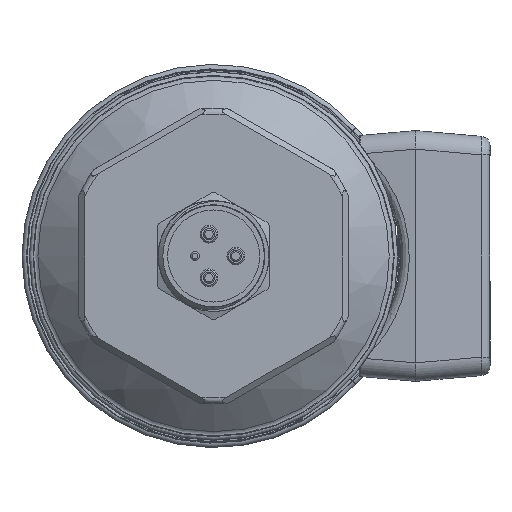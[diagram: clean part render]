
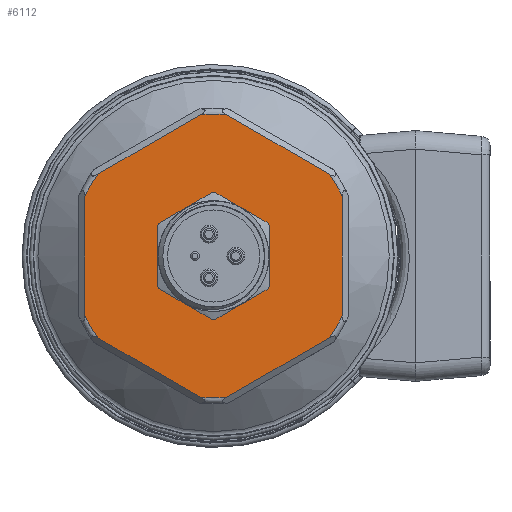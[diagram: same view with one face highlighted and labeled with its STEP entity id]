
A CAD part, left-side view. The second image highlights one B-rep face of the part: STEP entity #6112.
In plain terms, the highlighted planar face has unit normal (-1, 0, 0).
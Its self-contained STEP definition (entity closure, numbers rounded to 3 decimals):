
#156 = CARTESIAN_POINT ( 'NONE',  ( -79.5, 29.197, 8.568 ) ) ;
#476 = EDGE_CURVE ( 'NONE', #11910, #11910, #3103, .T. ) ;
#628 = DIRECTION ( 'NONE',  ( 1., 0., 0. ) ) ;
#1331 = CARTESIAN_POINT ( 'NONE',  ( -79.5, 0., 0. ) ) ;
#1813 = VERTEX_POINT ( 'NONE', #11386 ) ;
#1871 = VERTEX_POINT ( 'NONE', #3132 ) ;
#1894 = AXIS2_PLACEMENT_3D ( 'NONE', #27628, #16268, #22292 ) ;
#2194 = EDGE_CURVE ( 'NONE', #1813, #11614, #8931, .T. ) ;
#2472 = VECTOR ( 'NONE', #26910, 1000. ) ;
#3103 = CIRCLE ( 'NONE', #23232, 5.753 ) ;
#3132 = CARTESIAN_POINT ( 'NONE',  ( -79.5, -19.809, -13.989 ) ) ;
#3173 = DIRECTION ( 'NONE',  ( 0., 0., 1. ) ) ;
#3331 = CIRCLE ( 'NONE', #18072, 24.25 ) ;
#3649 = CIRCLE ( 'NONE', #10634, 24.25 ) ;
#3679 = DIRECTION ( 'NONE',  ( 0., 0., -1. ) ) ;
#3766 = DIRECTION ( 'NONE',  ( 0., 0.866, 0.5 ) ) ;
#4213 = VERTEX_POINT ( 'NONE', #19995 ) ;
#4393 = FACE_OUTER_BOUND ( 'NONE', #8700, .T. ) ;
#4812 = EDGE_LOOP ( 'NONE', ( #16168 ) ) ;
#4859 = DIRECTION ( 'NONE',  ( 0., -0.866, -0.5 ) ) ;
#5097 = CARTESIAN_POINT ( 'NONE',  ( -79.5, -19.809, 13.989 ) ) ;
#5508 = DIRECTION ( 'NONE',  ( -1., 0., 0. ) ) ;
#5591 = ORIENTED_EDGE ( 'NONE', *, *, #22800, .T. ) ;
#5604 = DIRECTION ( 'NONE',  ( 1., 0., 0. ) ) ;
#5869 = VECTOR ( 'NONE', #3766, 1000. ) ;
#6083 = DIRECTION ( 'NONE',  ( 0., 0., -1. ) ) ;
#6112 = ADVANCED_FACE ( 'NONE', ( #10612, #4393 ), #19329, .T. ) ;
#6269 = LINE ( 'NONE', #19511, #11715 ) ;
#7153 = CARTESIAN_POINT ( 'NONE',  ( -79.5, 22.019, -10.161 ) ) ;
#7980 = EDGE_CURVE ( 'NONE', #17534, #1871, #29231, .T. ) ;
#8063 = VERTEX_POINT ( 'NONE', #21896 ) ;
#8700 = EDGE_LOOP ( 'NONE', ( #30036, #19270, #11409, #5591, #19060, #15617, #26456, #24907, #25598, #28557, #12749, #22776 ) ) ;
#8754 = DIRECTION ( 'NONE',  ( 0., 0., 1. ) ) ;
#8931 = CIRCLE ( 'NONE', #1894, 24.25 ) ;
#9258 = EDGE_CURVE ( 'NONE', #8063, #1871, #12268, .T. ) ;
#10009 = CARTESIAN_POINT ( 'NONE',  ( -79.5, 2.21, 24.149 ) ) ;
#10466 = CARTESIAN_POINT ( 'NONE',  ( -79.5, 22.019, 0. ) ) ;
#10612 = FACE_BOUND ( 'NONE', #4812, .T. ) ;
#10634 = AXIS2_PLACEMENT_3D ( 'NONE', #1331, #17671, #3679 ) ;
#10831 = DIRECTION ( 'NONE',  ( 1., 0., 0. ) ) ;
#10974 = EDGE_CURVE ( 'NONE', #22278, #27781, #6269, .T. ) ;
#11386 = CARTESIAN_POINT ( 'NONE',  ( -79.5, 22.019, 10.161 ) ) ;
#11409 = ORIENTED_EDGE ( 'NONE', *, *, #17435, .F. ) ;
#11614 = VERTEX_POINT ( 'NONE', #21345 ) ;
#11676 = VERTEX_POINT ( 'NONE', #7153 ) ;
#11715 = VECTOR ( 'NONE', #4859, 1000. ) ;
#11910 = VERTEX_POINT ( 'NONE', #28529 ) ;
#12108 = AXIS2_PLACEMENT_3D ( 'NONE', #19535, #5508, #21901 ) ;
#12268 = LINE ( 'NONE', #28886, #29206 ) ;
#12573 = DIRECTION ( 'NONE',  ( 1., 0., 0. ) ) ;
#12749 = ORIENTED_EDGE ( 'NONE', *, *, #7980, .F. ) ;
#13540 = VERTEX_POINT ( 'NONE', #17320 ) ;
#14172 = DIRECTION ( 'NONE',  ( 0., 0.866, -0.5 ) ) ;
#14462 = EDGE_CURVE ( 'NONE', #19333, #4213, #29554, .T. ) ;
#14816 = DIRECTION ( 'NONE',  ( 0., -0.866, 0.5 ) ) ;
#15617 = ORIENTED_EDGE ( 'NONE', *, *, #18164, .T. ) ;
#16168 = ORIENTED_EDGE ( 'NONE', *, *, #476, .F. ) ;
#16268 = DIRECTION ( 'NONE',  ( 1., 0., 0. ) ) ;
#17103 = VECTOR ( 'NONE', #3173, 1000. ) ;
#17250 = EDGE_CURVE ( 'NONE', #22278, #11676, #27513, .T. ) ;
#17320 = CARTESIAN_POINT ( 'NONE',  ( -79.5, -2.21, 24.149 ) ) ;
#17435 = EDGE_CURVE ( 'NONE', #25662, #13540, #3649, .T. ) ;
#17534 = VERTEX_POINT ( 'NONE', #17879 ) ;
#17671 = DIRECTION ( 'NONE',  ( 1., 0., 0. ) ) ;
#17779 = LINE ( 'NONE', #156, #29563 ) ;
#17879 = CARTESIAN_POINT ( 'NONE',  ( -79.5, -22.019, -10.161 ) ) ;
#18072 = AXIS2_PLACEMENT_3D ( 'NONE', #24906, #10831, #27276 ) ;
#18164 = EDGE_CURVE ( 'NONE', #1813, #11676, #21163, .T. ) ;
#18311 = LINE ( 'NONE', #26948, #5869 ) ;
#19060 = ORIENTED_EDGE ( 'NONE', *, *, #2194, .F. ) ;
#19270 = ORIENTED_EDGE ( 'NONE', *, *, #19748, .T. ) ;
#19329 = PLANE ( 'NONE',  #12108 ) ;
#19333 = VERTEX_POINT ( 'NONE', #5097 ) ;
#19511 = CARTESIAN_POINT ( 'NONE',  ( -79.5, 29.197, -8.568 ) ) ;
#19535 = CARTESIAN_POINT ( 'NONE',  ( -79.5, 24.25, 0. ) ) ;
#19632 = CARTESIAN_POINT ( 'NONE',  ( -79.5, 0., 0. ) ) ;
#19748 = EDGE_CURVE ( 'NONE', #19333, #13540, #18311, .T. ) ;
#19995 = CARTESIAN_POINT ( 'NONE',  ( -79.5, -22.019, 10.161 ) ) ;
#21163 = LINE ( 'NONE', #10466, #2472 ) ;
#21345 = CARTESIAN_POINT ( 'NONE',  ( -79.5, 19.809, 13.989 ) ) ;
#21605 = AXIS2_PLACEMENT_3D ( 'NONE', #24085, #628, #6083 ) ;
#21896 = CARTESIAN_POINT ( 'NONE',  ( -79.5, -2.21, -24.149 ) ) ;
#21901 = DIRECTION ( 'NONE',  ( 0., 0., 1. ) ) ;
#22005 = DIRECTION ( 'NONE',  ( 0., 0., -1. ) ) ;
#22278 = VERTEX_POINT ( 'NONE', #27478 ) ;
#22292 = DIRECTION ( 'NONE',  ( 0., 0., -1. ) ) ;
#22776 = ORIENTED_EDGE ( 'NONE', *, *, #29287, .T. ) ;
#22800 = EDGE_CURVE ( 'NONE', #25662, #11614, #17779, .T. ) ;
#23232 = AXIS2_PLACEMENT_3D ( 'NONE', #26949, #30108, #8754 ) ;
#23361 = LINE ( 'NONE', #26565, #17103 ) ;
#23806 = AXIS2_PLACEMENT_3D ( 'NONE', #19632, #5604, #22005 ) ;
#24085 = CARTESIAN_POINT ( 'NONE',  ( -79.5, 0., 0. ) ) ;
#24574 = EDGE_CURVE ( 'NONE', #8063, #27781, #3331, .T. ) ;
#24906 = CARTESIAN_POINT ( 'NONE',  ( -79.5, 0., 0. ) ) ;
#24907 = ORIENTED_EDGE ( 'NONE', *, *, #10974, .T. ) ;
#24946 = AXIS2_PLACEMENT_3D ( 'NONE', #26672, #12573, #29018 ) ;
#25598 = ORIENTED_EDGE ( 'NONE', *, *, #24574, .F. ) ;
#25662 = VERTEX_POINT ( 'NONE', #10009 ) ;
#26456 = ORIENTED_EDGE ( 'NONE', *, *, #17250, .F. ) ;
#26565 = CARTESIAN_POINT ( 'NONE',  ( -79.5, -22.019, 0. ) ) ;
#26672 = CARTESIAN_POINT ( 'NONE',  ( -79.5, 0., 0. ) ) ;
#26910 = DIRECTION ( 'NONE',  ( 0., 0., -1. ) ) ;
#26949 = CARTESIAN_POINT ( 'NONE',  ( -79.5, 0., 0. ) ) ;
#26948 = CARTESIAN_POINT ( 'NONE',  ( -79.5, 7.178, 29.569 ) ) ;
#27276 = DIRECTION ( 'NONE',  ( 0., 0., -1. ) ) ;
#27478 = CARTESIAN_POINT ( 'NONE',  ( -79.5, 19.809, -13.989 ) ) ;
#27513 = CIRCLE ( 'NONE', #23806, 24.25 ) ;
#27628 = CARTESIAN_POINT ( 'NONE',  ( -79.5, 0., 0. ) ) ;
#27781 = VERTEX_POINT ( 'NONE', #29438 ) ;
#28529 = CARTESIAN_POINT ( 'NONE',  ( -79.5, 0., 5.753 ) ) ;
#28557 = ORIENTED_EDGE ( 'NONE', *, *, #9258, .T. ) ;
#28886 = CARTESIAN_POINT ( 'NONE',  ( -79.5, 7.178, -29.569 ) ) ;
#29018 = DIRECTION ( 'NONE',  ( 0., 0., -1. ) ) ;
#29206 = VECTOR ( 'NONE', #14816, 1000. ) ;
#29231 = CIRCLE ( 'NONE', #21605, 24.25 ) ;
#29287 = EDGE_CURVE ( 'NONE', #17534, #4213, #23361, .T. ) ;
#29438 = CARTESIAN_POINT ( 'NONE',  ( -79.5, 2.21, -24.149 ) ) ;
#29554 = CIRCLE ( 'NONE', #24946, 24.25 ) ;
#29563 = VECTOR ( 'NONE', #14172, 1000. ) ;
#30036 = ORIENTED_EDGE ( 'NONE', *, *, #14462, .F. ) ;
#30108 = DIRECTION ( 'NONE',  ( -1., 0., 0. ) ) ;
